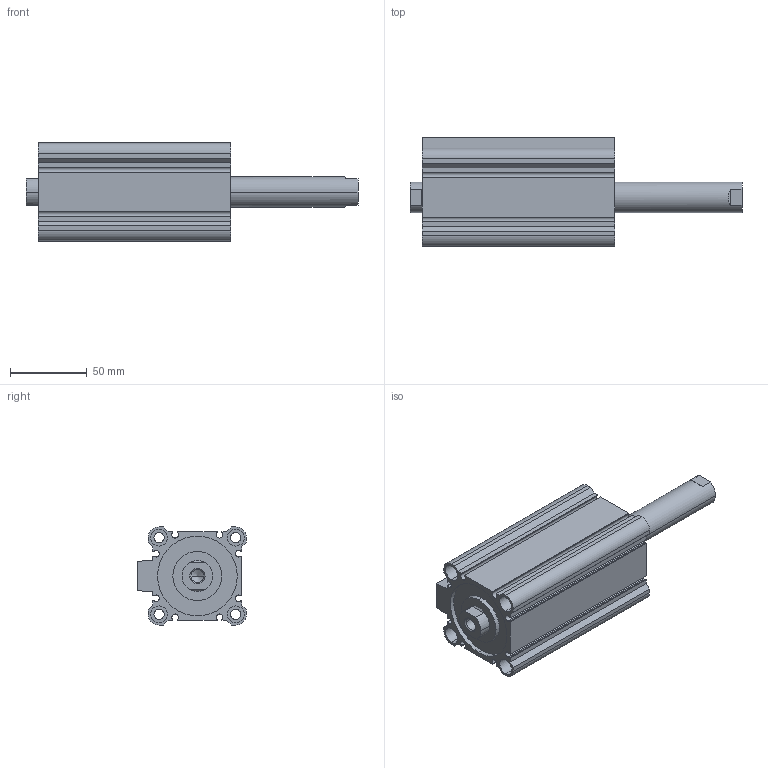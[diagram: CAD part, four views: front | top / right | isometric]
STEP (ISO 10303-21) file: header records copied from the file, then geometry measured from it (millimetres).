
FILE_DESCRIPTION (( 'STEP AP203' ), '1' );
FILE_NAME ('CCMB50-75F-P.STEP', '2020-08-05T11:44:44', ( '' ), ( '' ), 'SwSTEP 2.0', 'SolidWorks 2019', '' );
FILE_SCHEMA (( 'CONFIG_CONTROL_DESIGN' ));
Length unit declared in the file: millimetre
Products named in the file (1): CCMB50-75F-P
Bounding box: 216.5 x 71 x 64 mm (x, y, z)
Volume: 328636.3 mm3; surface area: 104621.8 mm2
Topology: 2 solids, 2 shells, 164 faces, 414 edges, 270 vertices
Faces by surface type: plane 78, cylinder 74, cone 12
Entity records: 5029 total; most frequent: DIRECTION 896, CARTESIAN_POINT 857, ORIENTED_EDGE 820, EDGE_CURVE 410, AXIS2_PLACEMENT_3D 325, VERTEX_POINT 270, LINE 246, VECTOR 246
